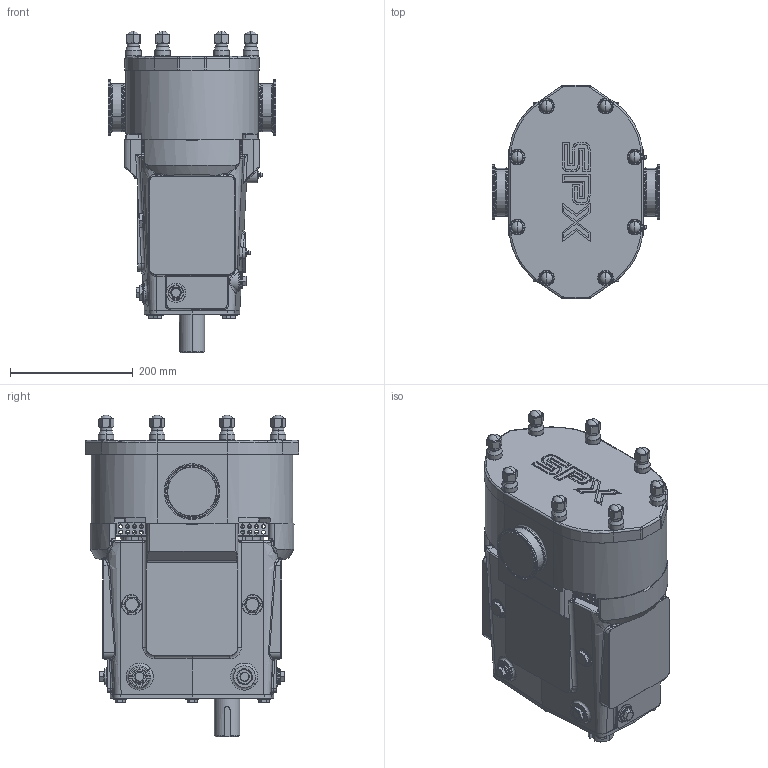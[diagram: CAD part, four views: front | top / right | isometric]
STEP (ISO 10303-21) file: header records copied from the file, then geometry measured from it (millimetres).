
FILE_DESCRIPTION (( 'STEP AP214' ), '1' );
FILE_NAME ('Model 130 Universal 3 Series Side Mount RH.STEP', '2017-11-22T13:13:38', ( '' ), ( '' ), 'SwSTEP 2.0', 'SolidWorks 2014', '' );
FILE_SCHEMA (( 'AUTOMOTIVE_DESIGN' ));
Length unit declared in the file: inch
Products named in the file (1): Model 130 Universal 3 Series Side Mount RH
Bounding box: 272.88 x 349.25 x 525.16 mm (x, y, z)
Volume: 21647222.4 mm3; surface area: 770740.9 mm2
Topology: 3 solids, 3 shells, 2241 faces, 5809 edges, 3623 vertices
Faces by surface type: plane 789, cylinder 704, torus 310, cone 254, bspline 166, sphere 18
Entity records: 78354 total; most frequent: CARTESIAN_POINT 24235, ORIENTED_EDGE 11562, DIRECTION 11410, EDGE_CURVE 5781, AXIS2_PLACEMENT_3D 4455, VERTEX_POINT 3623, VECTOR 2500, LINE 2500
